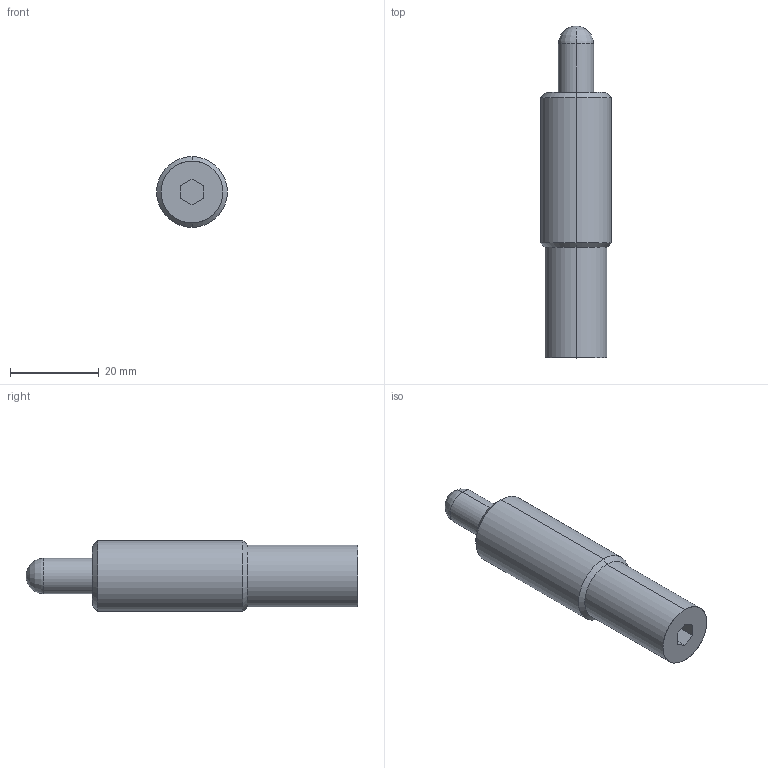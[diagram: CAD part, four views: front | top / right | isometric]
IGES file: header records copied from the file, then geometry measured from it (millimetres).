
Start section: START RECORD GO HERE.
Global section: file name: M314-04-008.igs; native system: DASSAULT SYSTEMES CATIA V5 R20 - www.3ds.com; preprocessor: CATIA Version 5 Release 20 ; author: Utente; organization: NB04-ASUS; date: 20200418.091220; units: millimetre
Bounding box: 16 x 75 x 16 mm (x, y, z)
Surface area: 3605.5 mm2 (no closed solid volume)
Topology: 0 solids, 0 shells, 21 faces, 90 edges, 88 vertices
Faces by surface type: revolution 12, extrusion 9
